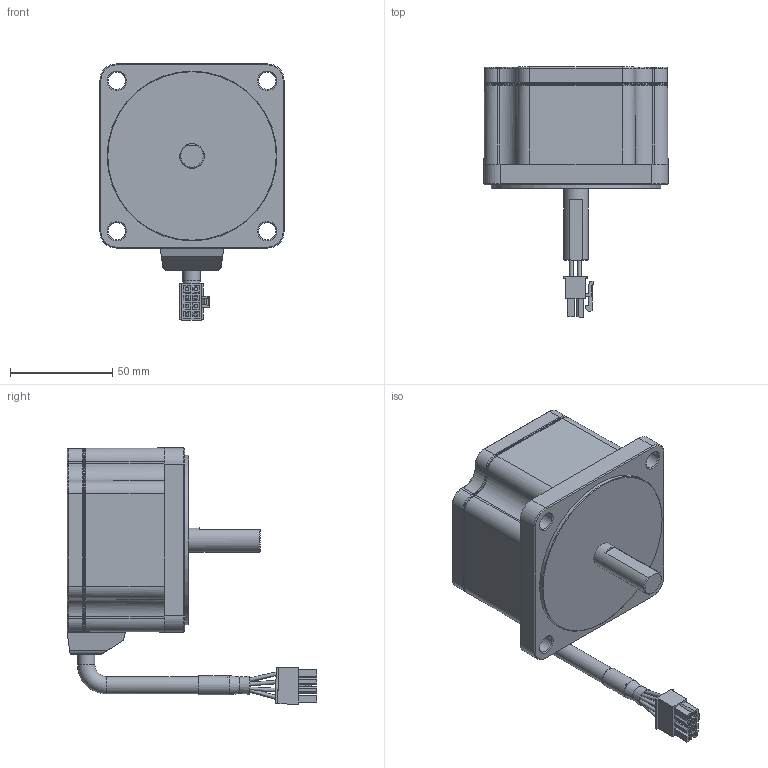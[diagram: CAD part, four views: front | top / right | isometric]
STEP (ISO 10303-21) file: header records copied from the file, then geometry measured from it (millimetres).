
FILE_DESCRIPTION((''),'2;1');
FILE_NAME('C:\Users\AHN\Desktop\BLDC 홈페이지용\K9XS100N2.stp','2020-08-20T17:16:19',('AHN'),(''),'Autodesk Inventor 2009','Autodesk Inventor 2009','');
FILE_SCHEMA(('AUTOMOTIVE_DESIGN { 1 0 10303 214 1 1 1 1 }'));
Length unit declared in the file: millimetre
Products named in the file (13): K9LS100N2; 부품36_1_1; 부품36_2_1; 부품36_3_1; 부품36_4_1; 부품36_5_1; 부품36_6_1; 부품36_7_1; 부품36_8; x타입 케이블; 부품35_1; 부품35_2; 하우징
Assembly tree (12 placements, depth 3):
  K9LS100N2
    부품36_1_1
    부품36_2_1
    부품36_3_1
    부품36_4_1
    부품36_5_1
    부품36_6_1
    부품36_7_1
    부품36_8
    x타입 케이블
      부품35_1
      부품35_2
      하우징
Bounding box: 90 x 122.06 x 125.21 mm (x, y, z)
Volume: 444059.7 mm3; surface area: 58032.6 mm2
Topology: 5 solids, 5 shells, 533 faces, 1402 edges, 889 vertices
Faces by surface type: plane 388, cylinder 77, cone 27, bspline 24, torus 17
Full cylindrical faces by diameter (mm): 1.75 x10, 8.5 x6, 9 x1, 9.4 x1, 12 x2, 83 x1, 86.5 x1
Entity records: 18513 total; most frequent: CARTESIAN_POINT 5214, ORIENTED_EDGE 2704, DIRECTION 2602, EDGE_CURVE 1352, VECTOR 1090, LINE 1090, VERTEX_POINT 879, AXIS2_PLACEMENT_3D 756
